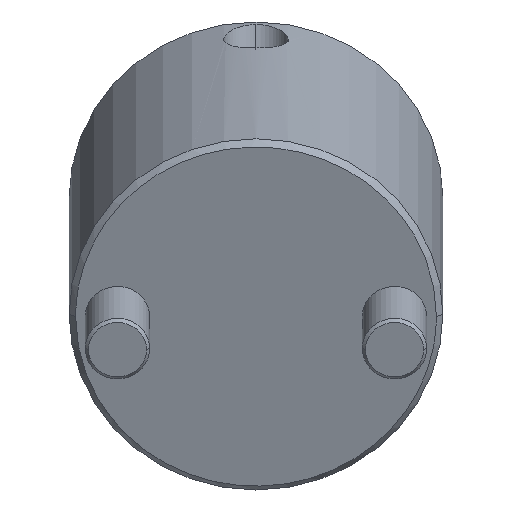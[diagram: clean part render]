
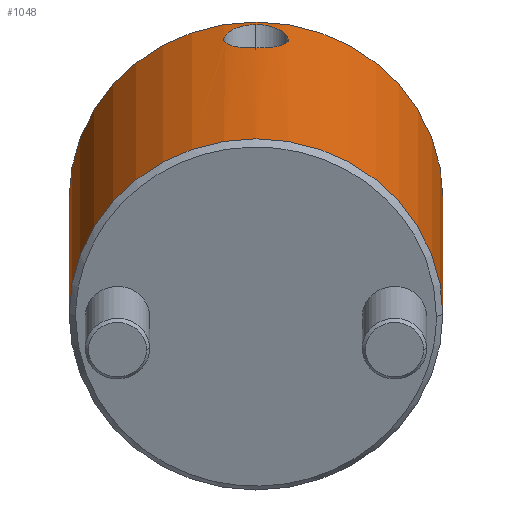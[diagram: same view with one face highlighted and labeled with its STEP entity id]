
A CAD part, front view. The second image highlights one B-rep face of the part: STEP entity #1048.
In plain terms, the highlighted cylindrical face has radius 29 mm (diameter 58 mm), a partial arc.
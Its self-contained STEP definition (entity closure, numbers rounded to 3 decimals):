
#778=CARTESIAN_POINT('Vertex',(0.,29.,1.)) ;
#781=CARTESIAN_POINT('Axis2P3D Location',(0.,0.,1.)) ;
#785=CARTESIAN_POINT('Vertex',(0.,-29.,1.)) ;
#937=CARTESIAN_POINT('Axis2P3D Location',(0.,0.,-2.75)) ;
#942=CARTESIAN_POINT('Line Origine',(0.,29.,-2.75)) ;
#946=CARTESIAN_POINT('Vertex',(0.,29.,54.)) ;
#949=CARTESIAN_POINT('Axis2P3D Location',(0.,0.,54.)) ;
#953=CARTESIAN_POINT('Vertex',(0.,-29.,54.)) ;
#956=CARTESIAN_POINT('Line Origine',(0.,-29.,-2.75)) ;
#968=CARTESIAN_POINT('Control Point',(29.,0.,52.84)) ;
#969=CARTESIAN_POINT('Control Point',(29.,0.41,52.84)) ;
#970=CARTESIAN_POINT('Control Point',(28.993,0.818,52.794)) ;
#971=CARTESIAN_POINT('Control Point',(28.978,1.227,52.698)) ;
#972=CARTESIAN_POINT('Control Point',(28.941,1.922,52.449)) ;
#973=CARTESIAN_POINT('Control Point',(28.888,2.571,52.061)) ;
#974=CARTESIAN_POINT('Control Point',(28.862,2.839,51.869)) ;
#975=CARTESIAN_POINT('Control Point',(28.799,3.437,51.363)) ;
#976=CARTESIAN_POINT('Control Point',(28.732,3.948,50.737)) ;
#977=CARTESIAN_POINT('Control Point',(28.695,4.202,50.348)) ;
#978=CARTESIAN_POINT('Control Point',(28.645,4.527,49.719)) ;
#979=CARTESIAN_POINT('Control Point',(28.608,4.752,49.055)) ;
#980=CARTESIAN_POINT('Control Point',(28.597,4.816,48.831)) ;
#981=CARTESIAN_POINT('Control Point',(28.575,4.947,48.265)) ;
#982=CARTESIAN_POINT('Control Point',(28.565,5.007,47.682)) ;
#983=CARTESIAN_POINT('Control Point',(28.563,5.016,47.333)) ;
#984=CARTESIAN_POINT('Control Point',(28.569,4.98,46.642)) ;
#985=CARTESIAN_POINT('Control Point',(28.593,4.841,45.975)) ;
#986=CARTESIAN_POINT('Control Point',(28.609,4.747,45.653)) ;
#987=CARTESIAN_POINT('Control Point',(28.642,4.548,45.132)) ;
#988=CARTESIAN_POINT('Control Point',(28.682,4.285,44.647)) ;
#989=CARTESIAN_POINT('Control Point',(28.699,4.17,44.461)) ;
#990=CARTESIAN_POINT('Control Point',(28.735,3.921,44.101)) ;
#991=CARTESIAN_POINT('Control Point',(28.772,3.633,43.771)) ;
#992=CARTESIAN_POINT('Control Point',(28.791,3.481,43.613)) ;
#993=CARTESIAN_POINT('Control Point',(28.838,3.081,43.245)) ;
#994=CARTESIAN_POINT('Control Point',(28.882,2.635,42.935)) ;
#995=CARTESIAN_POINT('Control Point',(28.907,2.351,42.77)) ;
#996=CARTESIAN_POINT('Control Point',(28.953,1.732,42.478)) ;
#997=CARTESIAN_POINT('Control Point',(28.983,1.071,42.295)) ;
#998=CARTESIAN_POINT('Control Point',(28.994,0.716,42.231)) ;
#999=CARTESIAN_POINT('Control Point',(29.,0.359,42.199)) ;
#1000=CARTESIAN_POINT('Control Point',(29.,0.,42.199)) ;
#1001=CARTESIAN_POINT('Vertex',(29.,0.,52.84)) ;
#1003=CARTESIAN_POINT('Vertex',(29.,0.,42.199)) ;
#1007=CARTESIAN_POINT('Control Point',(29.,0.,42.199)) ;
#1008=CARTESIAN_POINT('Control Point',(29.,-0.436,42.199)) ;
#1009=CARTESIAN_POINT('Control Point',(28.992,-0.867,42.246)) ;
#1010=CARTESIAN_POINT('Control Point',(28.976,-1.295,42.34)) ;
#1011=CARTESIAN_POINT('Control Point',(28.941,-1.914,42.55)) ;
#1012=CARTESIAN_POINT('Control Point',(28.894,-2.488,42.857)) ;
#1013=CARTESIAN_POINT('Control Point',(28.877,-2.675,42.971)) ;
#1014=CARTESIAN_POINT('Control Point',(28.842,-3.033,43.216)) ;
#1015=CARTESIAN_POINT('Control Point',(28.805,-3.362,43.5)) ;
#1016=CARTESIAN_POINT('Control Point',(28.786,-3.519,43.651)) ;
#1017=CARTESIAN_POINT('Control Point',(28.749,-3.816,43.971)) ;
#1018=CARTESIAN_POINT('Control Point',(28.712,-4.078,44.322)) ;
#1019=CARTESIAN_POINT('Control Point',(28.695,-4.199,44.506)) ;
#1020=CARTESIAN_POINT('Control Point',(28.662,-4.421,44.885)) ;
#1021=CARTESIAN_POINT('Control Point',(28.633,-4.603,45.289)) ;
#1022=CARTESIAN_POINT('Control Point',(28.619,-4.683,45.497)) ;
#1023=CARTESIAN_POINT('Control Point',(28.596,-4.822,45.92)) ;
#1024=CARTESIAN_POINT('Control Point',(28.58,-4.917,46.36)) ;
#1025=CARTESIAN_POINT('Control Point',(28.574,-4.953,46.587)) ;
#1026=CARTESIAN_POINT('Control Point',(28.561,-5.028,47.275)) ;
#1027=CARTESIAN_POINT('Control Point',(28.566,-4.996,47.975)) ;
#1028=CARTESIAN_POINT('Control Point',(28.579,-4.925,48.442)) ;
#1029=CARTESIAN_POINT('Control Point',(28.618,-4.698,49.344)) ;
#1030=CARTESIAN_POINT('Control Point',(28.682,-4.293,50.19)) ;
#1031=CARTESIAN_POINT('Control Point',(28.718,-4.047,50.593)) ;
#1032=CARTESIAN_POINT('Control Point',(28.775,-3.624,51.146)) ;
#1033=CARTESIAN_POINT('Control Point',(28.831,-3.134,51.614)) ;
#1034=CARTESIAN_POINT('Control Point',(28.849,-2.966,51.757)) ;
#1035=CARTESIAN_POINT('Control Point',(28.883,-2.617,52.025)) ;
#1036=CARTESIAN_POINT('Control Point',(28.914,-2.245,52.25)) ;
#1037=CARTESIAN_POINT('Control Point',(28.928,-2.056,52.352)) ;
#1038=CARTESIAN_POINT('Control Point',(28.962,-1.546,52.588)) ;
#1039=CARTESIAN_POINT('Control Point',(28.985,-1.013,52.743)) ;
#1040=CARTESIAN_POINT('Control Point',(28.995,-0.674,52.809)) ;
#1041=CARTESIAN_POINT('Control Point',(29.,-0.337,52.84)) ;
#1042=CARTESIAN_POINT('Control Point',(29.,0.,52.84)) ;
#782=DIRECTION('Axis2P3D Direction',(0.,0.,1.)) ;
#938=DIRECTION('Axis2P3D Direction',(0.,-0.,1.)) ;
#939=DIRECTION('Axis2P3D XDirection',(0.,-1.,0.)) ;
#943=DIRECTION('Vector Direction',(0.,0.,1.)) ;
#950=DIRECTION('Axis2P3D Direction',(0.,-0.,1.)) ;
#957=DIRECTION('Vector Direction',(0.,0.,1.)) ;
#783=AXIS2_PLACEMENT_3D('Circle Axis2P3D',#781,#782,$) ;
#940=AXIS2_PLACEMENT_3D('Cylinder Axis2P3D',#937,#938,#939) ;
#951=AXIS2_PLACEMENT_3D('Circle Axis2P3D',#949,#950,$) ;
#962=ORIENTED_EDGE('',*,*,#948,.F.) ;
#963=ORIENTED_EDGE('',*,*,#955,.T.) ;
#964=ORIENTED_EDGE('',*,*,#960,.T.) ;
#965=ORIENTED_EDGE('',*,*,#787,.F.) ;
#1045=ORIENTED_EDGE('',*,*,#1005,.T.) ;
#1046=ORIENTED_EDGE('',*,*,#1043,.T.) ;
#1047=FACE_BOUND('',#1044,.T.) ;
#944=VECTOR('Line Direction',#943,1.) ;
#958=VECTOR('Line Direction',#957,1.) ;
#1048=ADVANCED_FACE('MANIFOLD_SOLID_BREP #1144',(#966,#1047),#941,.T.) ;
#967=B_SPLINE_CURVE_WITH_KNOTS('',5,(#968,#969,#970,#971,#972,#973,#974,#975,#976,#977,#978,#979,#980,#981,#982,#983,#984,#985,#986,#987,#988,#989,#990,#991,#992,#993,#994,#995,#996,#997,#998,#999,#1000),.UNSPECIFIED.,.F.,.U.,(6,3,3,3,3,3,3,3,3,3,6),(0.,3.082,5.432,8.625,10.233,12.595,14.944,16.512,18.076,20.419,22.998),.UNSPECIFIED.) ;
#1006=B_SPLINE_CURVE_WITH_KNOTS('',5,(#1007,#1008,#1009,#1010,#1011,#1012,#1013,#1014,#1015,#1016,#1017,#1018,#1019,#1020,#1021,#1022,#1023,#1024,#1025,#1026,#1027,#1028,#1029,#1030,#1031,#1032,#1033,#1034,#1035,#1036,#1037,#1038,#1039,#1040,#1041,#1042),.UNSPECIFIED.,.F.,.U.,(6,3,3,3,3,3,3,3,3,3,3,6),(0.,3.127,4.689,6.255,7.819,9.384,10.947,14.13,17.316,18.889,20.449,22.99),.UNSPECIFIED.) ;
#784=CIRCLE('generated circle',#783,29.) ;
#952=CIRCLE('generated circle',#951,29.) ;
#941=CYLINDRICAL_SURFACE('generated cylinder',#940,29.) ;
#787=EDGE_CURVE('',#779,#786,#784,.F.) ;
#948=EDGE_CURVE('',#947,#779,#945,.F.) ;
#955=EDGE_CURVE('',#947,#954,#952,.F.) ;
#960=EDGE_CURVE('',#954,#786,#959,.F.) ;
#1005=EDGE_CURVE('',#1002,#1004,#967,.T.) ;
#1043=EDGE_CURVE('',#1004,#1002,#1006,.T.) ;
#961=EDGE_LOOP('',(#962,#963,#964,#965)) ;
#1044=EDGE_LOOP('',(#1045,#1046)) ;
#966=FACE_OUTER_BOUND('',#961,.T.) ;
#945=LINE('Line',#942,#944) ;
#959=LINE('Line',#956,#958) ;
#779=VERTEX_POINT('',#778) ;
#786=VERTEX_POINT('',#785) ;
#947=VERTEX_POINT('',#946) ;
#954=VERTEX_POINT('',#953) ;
#1002=VERTEX_POINT('',#1001) ;
#1004=VERTEX_POINT('',#1003) ;
